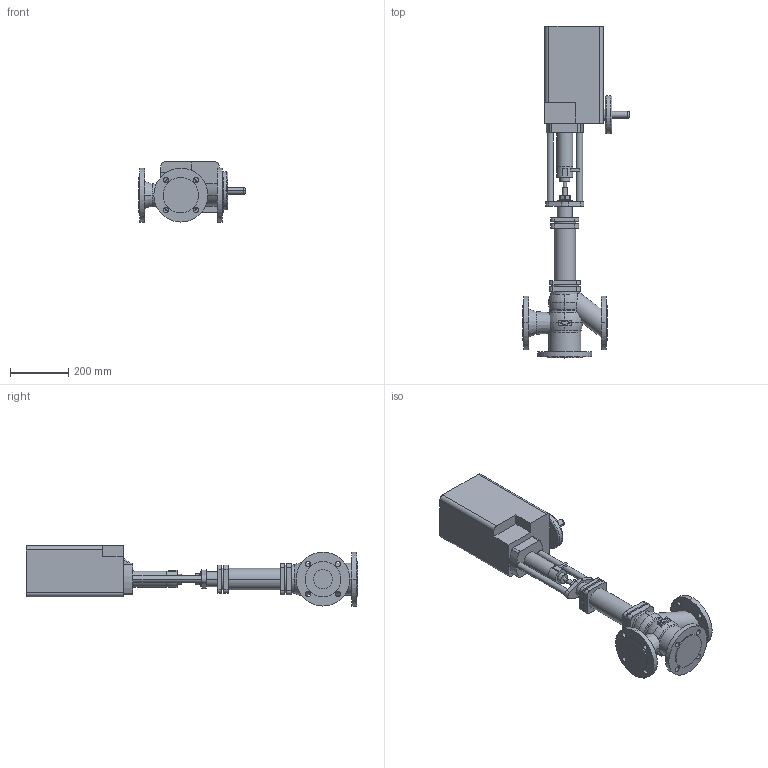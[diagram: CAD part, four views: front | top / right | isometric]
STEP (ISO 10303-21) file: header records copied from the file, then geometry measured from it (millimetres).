
FILE_DESCRIPTION(('OneSpaceDesigner STEP Export'),'2;1');
FILE_NAME('c000002456.stp','2006-09-21T11:52:27',(''),(''),'OneSpace Designer STEP processor for AP214 (Solid Model)','OneSpace Designer 13.20A 18-Aug-2005 (C) CoCreate Software GmbH','');
FILE_SCHEMA(('AUTOMOTIVE_DESIGN { 1 0 10303 214 1 1 1 1 }'));
Length unit declared in the file: millimetre
Products named in the file (2): 1; 2
Bounding box: 366.6 x 1138.5 x 206.5 mm (x, y, z)
Volume: 18561394.3 mm3; surface area: 846138.5 mm2
Topology: 2 solids, 2 shells, 252 faces, 631 edges, 418 vertices
Faces by surface type: cylinder 114, plane 110, torus 24, cone 4
Entity records: 7019 total; most frequent: CARTESIAN_POINT 1328, ORIENTED_EDGE 1262, DIRECTION 1069, EDGE_CURVE 631, VERTEX_POINT 418, AXIS2_PLACEMENT_3D 383, EDGE_LOOP 311, VECTOR 303
